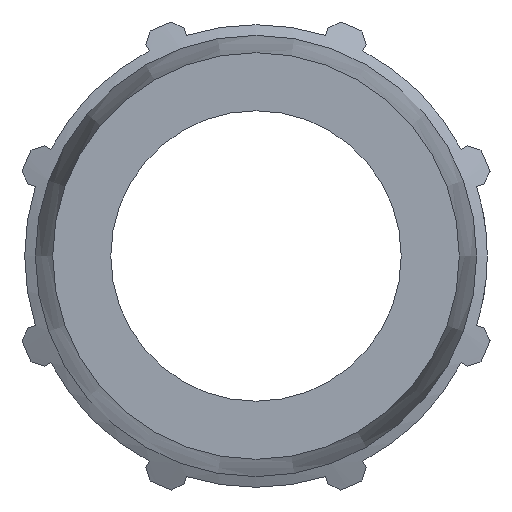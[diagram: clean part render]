
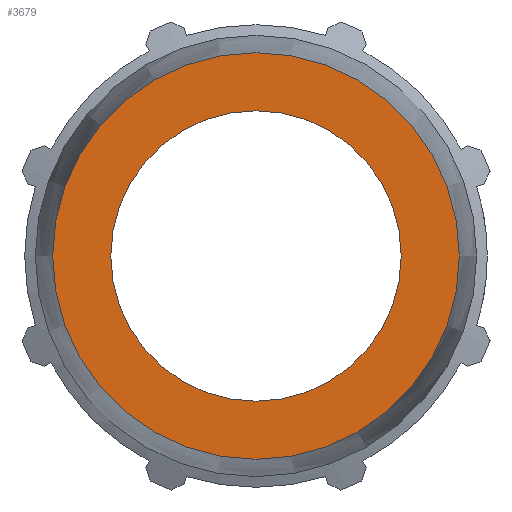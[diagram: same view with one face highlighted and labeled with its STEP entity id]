
A CAD part, left-side view. The second image highlights one B-rep face of the part: STEP entity #3679.
In plain terms, the highlighted planar face has unit normal (-1, 0, 0).
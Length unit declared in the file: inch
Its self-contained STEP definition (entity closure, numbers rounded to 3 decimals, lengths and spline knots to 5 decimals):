
#120=FACE_BOUND('',#521,.T.);
#176=PLANE('',#4005);
#315=FACE_OUTER_BOUND('',#520,.T.);
#520=EDGE_LOOP('',(#2900,#2901));
#521=EDGE_LOOP('',(#2902,#2903));
#755=CIRCLE('',#4003,2.44449);
#756=CIRCLE('',#4004,2.44449);
#757=CIRCLE('',#4006,1.74606);
#758=CIRCLE('',#4007,1.74606);
#1658=VERTEX_POINT('',#6018);
#1659=VERTEX_POINT('',#6019);
#1660=VERTEX_POINT('',#6024);
#1661=VERTEX_POINT('',#6025);
#2118=EDGE_CURVE('',#1658,#1659,#755,.T.);
#2120=EDGE_CURVE('',#1659,#1658,#756,.T.);
#2121=EDGE_CURVE('',#1660,#1661,#757,.T.);
#2122=EDGE_CURVE('',#1661,#1660,#758,.T.);
#2900=ORIENTED_EDGE('',*,*,#2118,.F.);
#2901=ORIENTED_EDGE('',*,*,#2120,.F.);
#2902=ORIENTED_EDGE('',*,*,#2121,.T.);
#2903=ORIENTED_EDGE('',*,*,#2122,.T.);
#3679=ADVANCED_FACE('',(#315,#120),#176,.F.);
#4003=AXIS2_PLACEMENT_3D('',#6020,#4720,#4721);
#4004=AXIS2_PLACEMENT_3D('',#6022,#4723,#4724);
#4005=AXIS2_PLACEMENT_3D('',#6023,#4725,#4726);
#4006=AXIS2_PLACEMENT_3D('',#6026,#4727,#4728);
#4007=AXIS2_PLACEMENT_3D('',#6027,#4729,#4730);
#4720=DIRECTION('center_axis',(1.,0.,0.));
#4721=DIRECTION('ref_axis',(0.,0.,-1.));
#4723=DIRECTION('center_axis',(1.,0.,0.));
#4724=DIRECTION('ref_axis',(0.,0.,-1.));
#4725=DIRECTION('center_axis',(1.,0.,0.));
#4726=DIRECTION('ref_axis',(0.,0.,-1.));
#4727=DIRECTION('center_axis',(1.,0.,0.));
#4728=DIRECTION('ref_axis',(0.,0.,-1.));
#4729=DIRECTION('center_axis',(1.,0.,0.));
#4730=DIRECTION('ref_axis',(0.,0.,-1.));
#6018=CARTESIAN_POINT('',(-6.945,2.44449,0.));
#6019=CARTESIAN_POINT('',(-6.945,-2.44449,0.));
#6020=CARTESIAN_POINT('Origin',(-6.945,0.,0.));
#6022=CARTESIAN_POINT('Origin',(-6.945,0.,0.));
#6023=CARTESIAN_POINT('Origin',(-6.945,1.74606,0.));
#6024=CARTESIAN_POINT('',(-6.945,1.74606,0.));
#6025=CARTESIAN_POINT('',(-6.945,-1.74606,0.));
#6026=CARTESIAN_POINT('Origin',(-6.945,0.,0.));
#6027=CARTESIAN_POINT('Origin',(-6.945,0.,0.));
